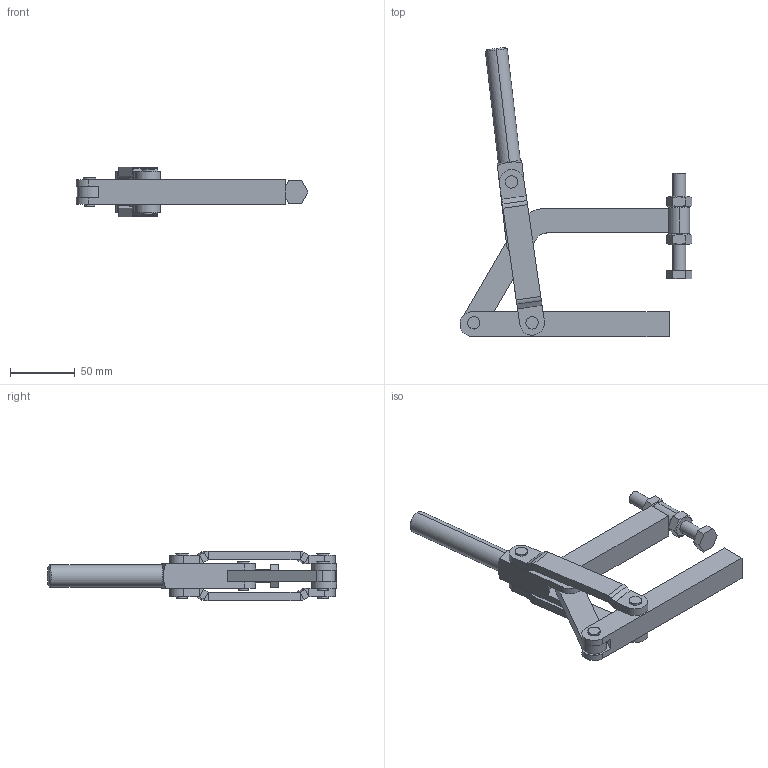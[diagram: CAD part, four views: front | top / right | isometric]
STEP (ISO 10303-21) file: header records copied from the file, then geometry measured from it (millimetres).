
FILE_DESCRIPTION (( 'STEP AP203' ), '1' );
FILE_NAME ('KF-06 MP.STEP', '2011-05-17T16:05:38', ( 'Usuario' ), ( '' ), 'SwSTEP 2.0', 'SolidWorks 2011', '' );
FILE_SCHEMA (( 'CONFIG_CONTROL_DESIGN' ));
Length unit declared in the file: millimetre
Products named in the file (11): KF-06 MP; PSB-M10; 12.50004; 11.50003; 20.20005; 06.50017; 06.50016; 08.10014; 01.20003; 03.15009_Montagem; 02.10009
Assembly tree (14 placements, depth 3):
  KF-06 MP
    06.50017  x2
    PSB-M10
      20.20005
      11.50003  x2
      12.50004
    06.50016  x2
    01.20003
    03.15009_Montagem
    08.10014  x2
    02.10009
Bounding box: 178.64 x 222.66 x 37.75 mm (x, y, z)
Volume: 193603.9 mm3; surface area: 63893.1 mm2
Topology: 13 solids, 13 shells, 246 faces, 555 edges, 336 vertices
Faces by surface type: plane 122, cylinder 88, cone 34, sphere 2
Entity records: 6066 total; most frequent: CARTESIAN_POINT 915, DIRECTION 881, ORIENTED_EDGE 750, EDGE_CURVE 375, AXIS2_PLACEMENT_3D 336, VERTEX_POINT 234, VECTOR 209, LINE 209
